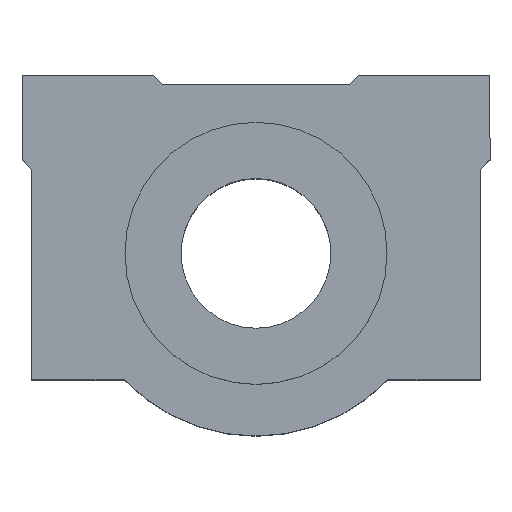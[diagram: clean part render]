
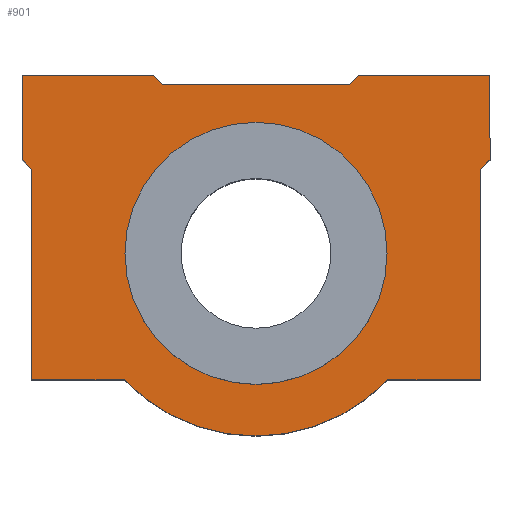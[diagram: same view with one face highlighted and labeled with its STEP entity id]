
A CAD part, top view. The second image highlights one B-rep face of the part: STEP entity #901.
In plain terms, the highlighted planar face has unit normal (0, 0, 1).
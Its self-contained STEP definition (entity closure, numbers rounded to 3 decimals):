
#133=CARTESIAN_POINT('',(-14.709,4.198,29.65));
#134=VERTEX_POINT('',#133);
#143=CARTESIAN_POINT('',(13.291,4.198,29.65));
#144=VERTEX_POINT('',#143);
#145=CARTESIAN_POINT('',(-0.709,4.198,29.65));
#146=DIRECTION('',(0.0,0.0,1.0));
#147=DIRECTION('',(-1.0,0.0,0.0));
#148=AXIS2_PLACEMENT_3D('',#145,#146,#147);
#149=CIRCLE('',#148,14.);
#150=EDGE_CURVE('',#134,#144,#149,.T.);
#522=CARTESIAN_POINT('',(24.291,14.198,29.65));
#523=VERTEX_POINT('',#522);
#524=CARTESIAN_POINT('',(23.291,13.198,29.65));
#525=VERTEX_POINT('',#524);
#526=CARTESIAN_POINT('',(24.291,14.198,29.65));
#527=DIRECTION('',(-0.707,-0.707,0.0));
#528=VECTOR('',#527,1.414);
#529=LINE('',#526,#528);
#530=EDGE_CURVE('',#523,#525,#529,.T.);
#553=CARTESIAN_POINT('',(23.291,-9.302,29.65));
#554=VERTEX_POINT('',#553);
#555=CARTESIAN_POINT('',(23.291,13.198,29.65));
#556=DIRECTION('',(0.0,-1.0,0.0));
#557=VECTOR('',#556,22.5);
#558=LINE('',#555,#557);
#559=EDGE_CURVE('',#525,#554,#558,.T.);
#577=CARTESIAN_POINT('',(13.362,-9.302,29.65));
#578=VERTEX_POINT('',#577);
#579=CARTESIAN_POINT('',(23.291,-9.302,29.65));
#580=DIRECTION('',(-1.0,0.0,0.0));
#581=VECTOR('',#580,9.929);
#582=LINE('',#579,#581);
#583=EDGE_CURVE('',#554,#578,#582,.T.);
#605=CARTESIAN_POINT('',(-14.78,-9.302,29.65));
#606=VERTEX_POINT('',#605);
#607=CARTESIAN_POINT('',(-0.709,4.198,29.65));
#608=DIRECTION('',(0.0,0.0,-1.));
#609=DIRECTION('',(0.722,0.692,0.0));
#610=AXIS2_PLACEMENT_3D('',#607,#608,#609);
#611=CIRCLE('',#610,19.5);
#612=EDGE_CURVE('',#578,#606,#611,.T.);
#630=CARTESIAN_POINT('',(-24.709,-9.302,29.65));
#631=VERTEX_POINT('',#630);
#632=CARTESIAN_POINT('',(-14.78,-9.302,29.65));
#633=DIRECTION('',(-1.0,0.0,0.0));
#634=VECTOR('',#633,9.929);
#635=LINE('',#632,#634);
#636=EDGE_CURVE('',#606,#631,#635,.T.);
#658=CARTESIAN_POINT('',(-24.709,13.198,29.65));
#659=VERTEX_POINT('',#658);
#660=CARTESIAN_POINT('',(-24.709,-9.302,29.65));
#661=DIRECTION('',(0.0,1.0,0.0));
#662=VECTOR('',#661,22.5);
#663=LINE('',#660,#662);
#664=EDGE_CURVE('',#631,#659,#663,.T.);
#682=CARTESIAN_POINT('',(-25.709,14.198,29.65));
#683=VERTEX_POINT('',#682);
#684=CARTESIAN_POINT('',(-24.709,13.198,29.65));
#685=DIRECTION('',(-0.707,0.707,0.0));
#686=VECTOR('',#685,1.414);
#687=LINE('',#684,#686);
#688=EDGE_CURVE('',#659,#683,#687,.T.);
#706=CARTESIAN_POINT('',(-25.709,23.198,29.65));
#707=VERTEX_POINT('',#706);
#708=CARTESIAN_POINT('',(-25.709,14.198,29.65));
#709=DIRECTION('',(0.0,1.0,0.0));
#710=VECTOR('',#709,9.0);
#711=LINE('',#708,#710);
#712=EDGE_CURVE('',#683,#707,#711,.T.);
#730=CARTESIAN_POINT('',(-11.709,23.198,29.65));
#731=VERTEX_POINT('',#730);
#732=CARTESIAN_POINT('',(-25.709,23.198,29.65));
#733=DIRECTION('',(1.0,0.0,0.0));
#734=VECTOR('',#733,14.0);
#735=LINE('',#732,#734);
#736=EDGE_CURVE('',#707,#731,#735,.T.);
#758=CARTESIAN_POINT('',(-10.709,22.198,29.65));
#759=VERTEX_POINT('',#758);
#760=CARTESIAN_POINT('',(-11.709,23.198,29.65));
#761=DIRECTION('',(0.707,-0.707,0.0));
#762=VECTOR('',#761,1.414);
#763=LINE('',#760,#762);
#764=EDGE_CURVE('',#731,#759,#763,.T.);
#782=CARTESIAN_POINT('',(9.291,22.198,29.65));
#783=VERTEX_POINT('',#782);
#784=CARTESIAN_POINT('',(-10.709,22.198,29.65));
#785=DIRECTION('',(1.0,0.0,0.0));
#786=VECTOR('',#785,20.0);
#787=LINE('',#784,#786);
#788=EDGE_CURVE('',#759,#783,#787,.T.);
#806=CARTESIAN_POINT('',(10.291,23.198,29.65));
#807=VERTEX_POINT('',#806);
#808=CARTESIAN_POINT('',(9.291,22.198,29.65));
#809=DIRECTION('',(0.707,0.707,0.0));
#810=VECTOR('',#809,1.414);
#811=LINE('',#808,#810);
#812=EDGE_CURVE('',#783,#807,#811,.T.);
#830=CARTESIAN_POINT('',(24.291,23.198,29.65));
#831=VERTEX_POINT('',#830);
#832=CARTESIAN_POINT('',(10.291,23.198,29.65));
#833=DIRECTION('',(1.0,0.0,0.0));
#834=VECTOR('',#833,14.);
#835=LINE('',#832,#834);
#836=EDGE_CURVE('',#807,#831,#835,.T.);
#858=CARTESIAN_POINT('',(24.291,23.198,29.65));
#859=DIRECTION('',(0.0,-1.0,0.0));
#860=VECTOR('',#859,9.0);
#861=LINE('',#858,#860);
#862=EDGE_CURVE('',#831,#523,#861,.T.);
#870=CARTESIAN_POINT('',(-0.709,6.142,29.65));
#871=DIRECTION('',(0.0,0.0,1.0));
#872=DIRECTION('',(1.0,0.0,0.0));
#873=AXIS2_PLACEMENT_3D('',#870,#871,#872);
#874=PLANE('',#873);
#875=ORIENTED_EDGE('',*,*,#530,.F.);
#876=ORIENTED_EDGE('',*,*,#862,.F.);
#877=ORIENTED_EDGE('',*,*,#836,.F.);
#878=ORIENTED_EDGE('',*,*,#812,.F.);
#879=ORIENTED_EDGE('',*,*,#788,.F.);
#880=ORIENTED_EDGE('',*,*,#764,.F.);
#881=ORIENTED_EDGE('',*,*,#736,.F.);
#882=ORIENTED_EDGE('',*,*,#712,.F.);
#883=ORIENTED_EDGE('',*,*,#688,.F.);
#884=ORIENTED_EDGE('',*,*,#664,.F.);
#885=ORIENTED_EDGE('',*,*,#636,.F.);
#886=ORIENTED_EDGE('',*,*,#612,.F.);
#887=ORIENTED_EDGE('',*,*,#583,.F.);
#888=ORIENTED_EDGE('',*,*,#559,.F.);
#889=EDGE_LOOP('',(#875,#876,#877,#878,#879,#880,#881,#882,#883,#884,#885,#886,#887,#888));
#890=FACE_OUTER_BOUND('',#889,.T.);
#891=CARTESIAN_POINT('',(-0.709,4.198,29.65));
#892=DIRECTION('',(0.0,0.0,1.0));
#893=DIRECTION('',(-1.0,0.0,0.0));
#894=AXIS2_PLACEMENT_3D('',#891,#892,#893);
#895=CIRCLE('',#894,14.);
#896=EDGE_CURVE('',#144,#134,#895,.T.);
#897=ORIENTED_EDGE('',*,*,#896,.F.);
#898=ORIENTED_EDGE('',*,*,#150,.F.);
#899=EDGE_LOOP('',(#897,#898));
#900=FACE_BOUND('',#899,.T.);
#901=ADVANCED_FACE('',(#890,#900),#874,.T.);
